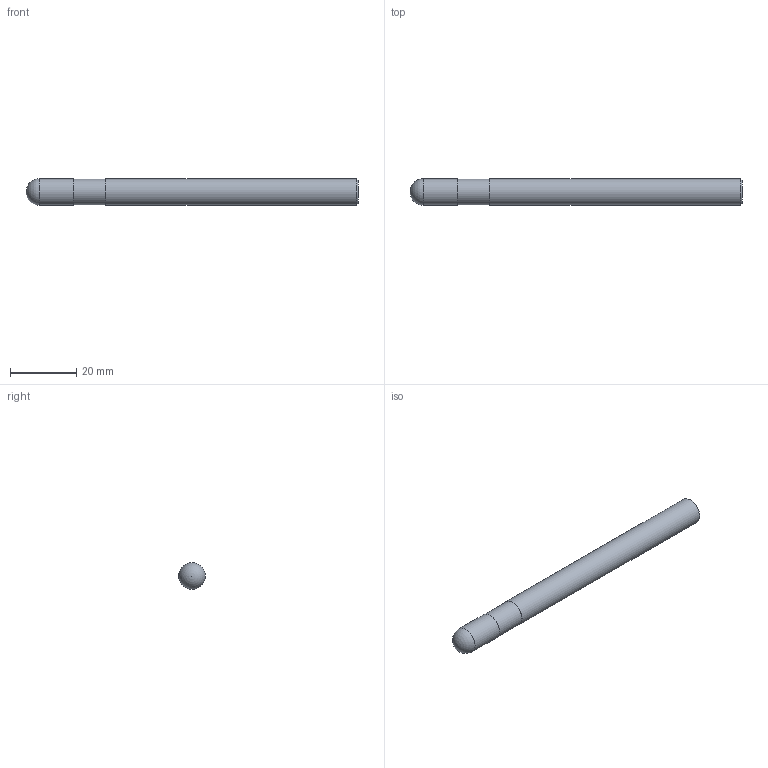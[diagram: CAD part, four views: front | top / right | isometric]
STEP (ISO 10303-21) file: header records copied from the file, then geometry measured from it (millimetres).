
FILE_DESCRIPTION(/* description */ (''),/* implementation_level */ '2;1');
FILE_NAME(/* name */ 'HSXBC4080 08100.stp',/* time_stamp */ '2026-01-27T10:30:54+08:00',/* author */ (''),/* organization */ (''),/* preprocessor_version */ 'ST-DEVELOPER v16',/* originating_system */ 'SIEMENS PLM Software NX 10.0',/* authorisation */ '');
FILE_SCHEMA (('CONFIG_CONTROL_DESIGN'));
Length unit declared in the file: millimetre
Products named in the file (1): HSXBC4080 08100_dxf
Bounding box: 100 x 8 x 8 mm (x, y, z)
Volume: 4933.8 mm3; surface area: 2556.4 mm2
Topology: 1 solids, 1 shells, 8 faces, 14 edges, 9 vertices
Faces by surface type: plane 3, cylinder 3, cone 1, sphere 1
Full cylindrical faces by diameter (mm): 7.8 x1, 8 x2
Entity records: 238 total; most frequent: DIRECTION 32, CARTESIAN_POINT 23, AXIS2_PLACEMENT_3D 16, EDGE_LOOP 14, ORIENTED_EDGE 14, FACE_BOUND 12, ADVANCED_FACE 8, PERSON_AND_ORGANIZATION 7
